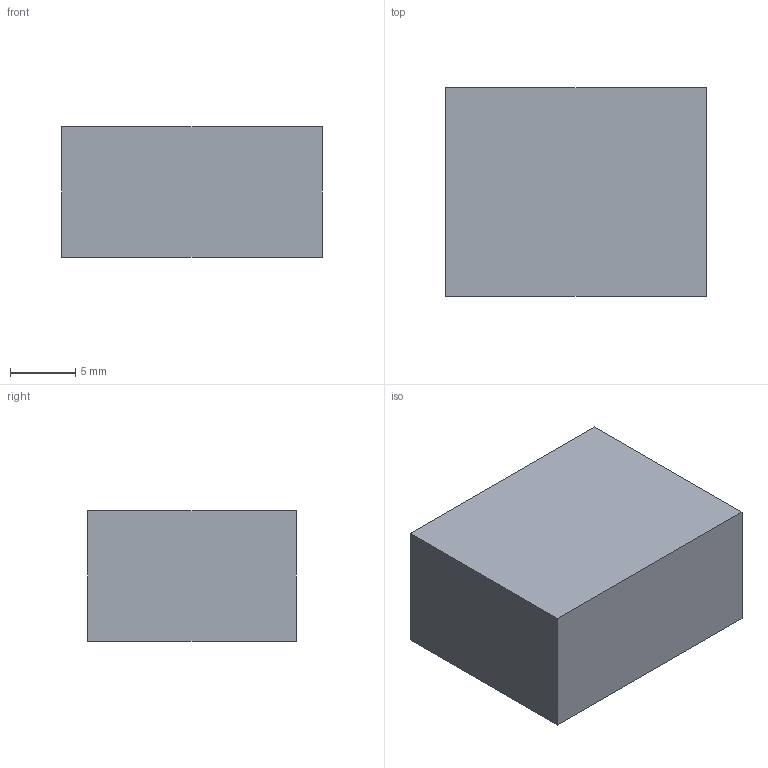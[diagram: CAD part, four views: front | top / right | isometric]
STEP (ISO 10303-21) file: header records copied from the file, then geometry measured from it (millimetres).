
FILE_DESCRIPTION(('Open CASCADE Model'),'2;1');
FILE_NAME('Open CASCADE Shape Model','2026-09-13T10:34:43',('Author'),( 'Open CASCADE'),'Open CASCADE STEP processor 7.9','Open CASCADE 7.9' ,'Unknown');
FILE_SCHEMA(('AUTOMOTIVE_DESIGN { 1 0 10303 214 1 1 1 1 }'));
Length unit declared in the file: millimetre
Products named in the file (1): Open CASCADE STEP translator 7.9 1
Bounding box: 20 x 16 x 10 mm (x, y, z)
Volume: 3200 mm3; surface area: 1360 mm2
Topology: 1 solids, 1 shells, 6 faces, 12 edges, 8 vertices
Faces by surface type: plane 6
Entity records: 322 total; most frequent: CARTESIAN_POINT 51, DIRECTION 50, LINE 36, VECTOR 36, ORIENTED_EDGE 24, PCURVE 24, DEFINITIONAL_REPRESENTATION 24, EDGE_CURVE 12
